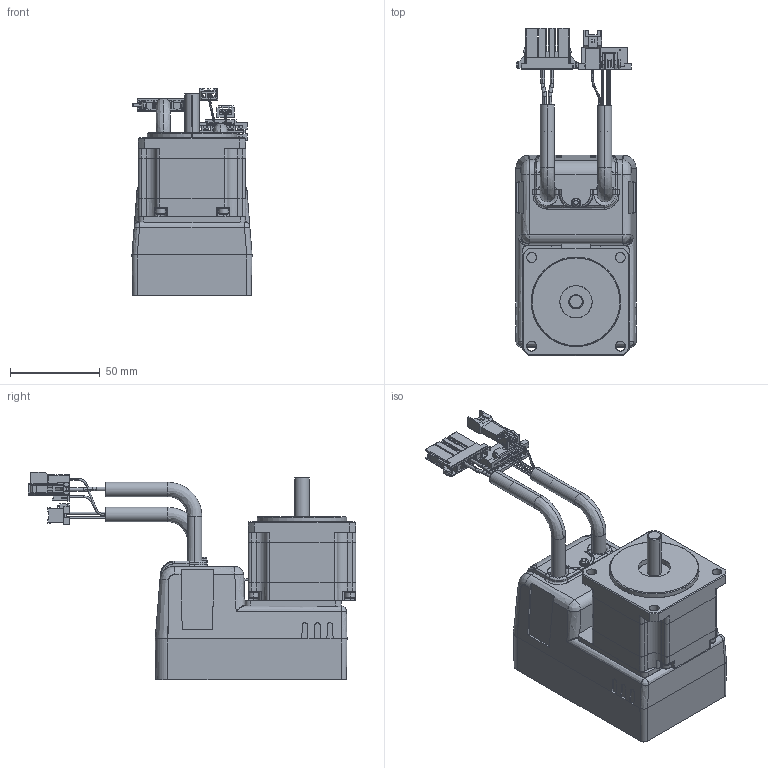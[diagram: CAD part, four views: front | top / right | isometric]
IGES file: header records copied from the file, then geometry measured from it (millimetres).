
Start section: SolidWorks IGES file using analytic representation for surfaces
Global section: file name: C:\3D---CAD_liuWorks\CM＊\CM2\ホームページー用向け\CM2-□-60A10C.IGS; native system: SolidWorks 2012; preprocessor: SolidWorks 2012; author: 3DCAD; date: 140225.142711; units: millimetre
Bounding box: 67 x 182.6 x 115.82 mm (x, y, z)
Surface area: 76025.5 mm2 (no closed solid volume)
Topology: 0 solids, 0 shells, 1546 faces, 11561 edges, 11551 vertices
Faces by surface type: bspline 1159, revolution 387
